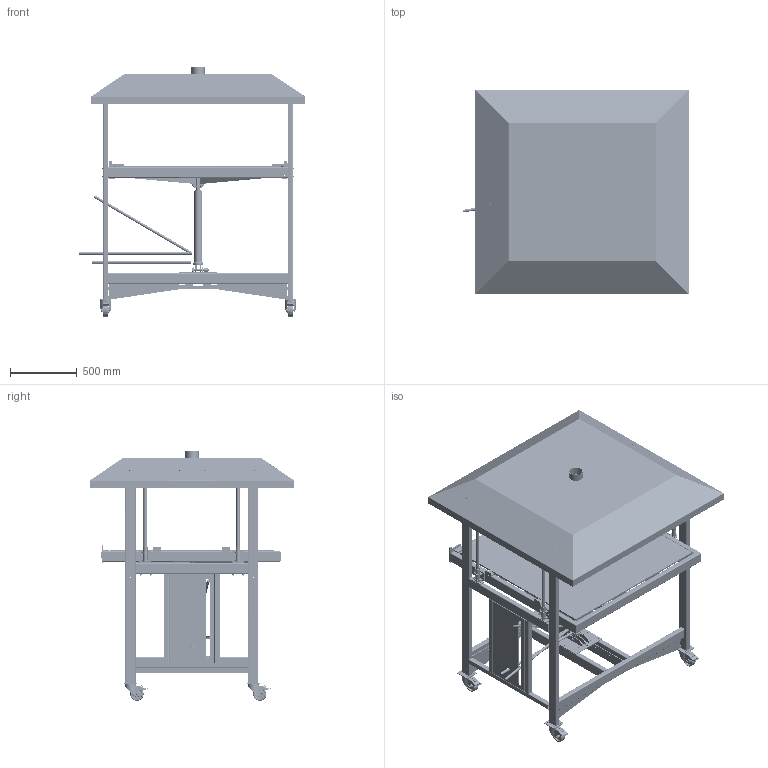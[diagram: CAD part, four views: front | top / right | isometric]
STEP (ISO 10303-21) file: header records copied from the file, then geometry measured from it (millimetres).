
FILE_DESCRIPTION(('STEP AP214'),'1');
FILE_NAME('FF-Coolpress v4.1.stp','2020-09-03T14:43:02',(' '),(' '),'Spatial InterOp 3D',' ',' ');
FILE_SCHEMA(('AUTOMOTIVE_DESIGN { 1 0 10303 214 1 1 1 1 }'));
Length unit declared in the file: metre
Products named in the file (102): SPR-V1 1000.01-A Side frame; Cut-Extrude3; Cut-Extrude321; Cut-Extrude31; voetplaat2; Cut-Extrude312; Frame^SPR-V1 0000.00-A Sheetpress assembly; SPR-V1 1000.01-A Side frame-1; SPR-V1 0000.01-A Bottom frame jack beams; SPR-V1 0000.01-A Bottom Frame side beams; SPR-V1 0000.01-A Jack mount lower; Afzuigkap steun; Component24; FF-Coolpress v4.1; SPR-V1 2100.01-A Pressing plate frame upper; frameA; frameB; frameC; Pressing plate upper^SPR-V1 0000.00-A Sheetpress assembly; SPR-V1 2100.03-A Support structure upper B; SPR-V1 2100.03-A Pressing plate support structure upper A; SPR-V1 2100.05-A Suspension plates2; hex nut gradec_iso_ISO - 4034 - M8 - N; Component23; SPR-V1 3100.01-A Pressing plate frame lower; frameD; frameE; frameF; Pressing plate lower^SPR-V1 0000.00-A Sheetpress assembly; SPR-V1 3100.03-A Pressing plate support structure lower A; SPR-V1 3100.03-A Pressing plate support structure lower B; SPR-V1 3100.03-A Jack mount; socket countersunk head screw_iso_ISO 10642 - M8 x 50 - 28N; persplaat; bolts, nuts, etc; hex bolt gradeab_iso_ISO 4014 - M8 x 100 x 100-N; plain washer normal grade a_iso_Washer ISO 7089 - 8; Sliding mechanism^SPR-V1 0000.00-A Sheetpress assembly; wagen; SPR-V1 1000.02-A Slider guide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
Assembly tree (290 placements, depth 5):
  FF-Coolpress v4.1
    Frame^SPR-V1 0000.00-A Sheetpress assembly
      SPR-V1 1000.01-A Side frame
        Cut-Extrude3
        Cut-Extrude321
        Cut-Extrude31
        voetplaat2  x2
        Cut-Extrude312
      SPR-V1 1000.01-A Side frame-1
        Cut-Extrude3
        Cut-Extrude321
        Cut-Extrude31
        voetplaat2  x2
        Cut-Extrude312
      SPR-V1 0000.01-A Bottom frame jack beams  x2
      SPR-V1 0000.01-A Bottom Frame side beams  x2
      SPR-V1 0000.01-A Jack mount lower  x3
      Afzuigkap steun  x2
      Component24
    Pressing plate upper^SPR-V1 0000.00-A Sheetpress assembly
      SPR-V1 2100.01-A Pressing plate frame upper
        frameA
        frameB  x2
        frameC
      SPR-V1 2100.03-A Support structure upper B
      SPR-V1 2100.03-A Pressing plate support structure upper A
      SPR-V1 2100.05-A Suspension plates2  x8
      hex nut gradec_iso_ISO - 4034 - M8 - N  x8
      Component23
    Pressing plate lower^SPR-V1 0000.00-A Sheetpress assembly
      SPR-V1 3100.01-A Pressing plate frame lower
        frameD
        frameE  x2
        frameF
      SPR-V1 3100.03-A Pressing plate support structure lower A
      SPR-V1 3100.03-A Pressing plate support structure lower B
      SPR-V1 3100.03-A Jack mount  x2
      socket countersunk head screw_iso_ISO 10642 - M8 x 50 - 28N  x8
      SPR-V1 2100.05-A Suspension plates2  x8
      persplaat
    Sliding mechanism^SPR-V1 0000.00-A Sheetpress assembly
      bolts, nuts, etc
        hex bolt gradeab_iso_ISO 4014 - M8 x 100 x 100-N  x16
        plain washer normal grade a_iso_Washer ISO 7089 - 8  x16
        hex nut gradec_iso_ISO - 4034 - M8 - N  x24
      wagen
        SPR-V1 1000.02-A Slider guide
        SPR-V1 1000.02-A Guide bracket  x2
        SPR-V1 1000.02-A Guide plate
      geleider
        SPR-V1 1000.03-A Slider rod
        SPR-V1 1000.04-A Slider rod plate  x2
      wagen-1
        SPR-V1 1000.02-A Slider guide
        SPR-V1 1000.02-A Guide bracket  x2
        SPR-V1 1000.02-A Guide plate
      geleider-1
        SPR-V1 1000.03-A Slider rod
        SPR-V1 1000.04-A Slider rod plate  x2
      wagen-2
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Bounding box: 1691.81 x 1530.42 x 1867.99 mm (x, y, z)
Volume: 81753634.9 mm3; surface area: 34247543.7 mm2
Topology: 273 solids, 301 shells, 12475 faces, 33405 edges, 21693 vertices
Faces by surface type: plane 6153, cylinder 3170, cone 1962, bspline 832, torus 205, extrusion 141, sphere 12
Full cylindrical faces by diameter (mm): 4 x4, 5 x20, 6 x12, 6.8 x98, 8 x122, 8.4 x16, 8.5 x24, 9 x56, 10 x28, 12 x46, 13 x16, 14 x8, 15 x12, 15.24 x8, 16 x545, 17 x18, 18 x29, 19 x4, 20 x3, 21 x4, 24 x8, 24.533 x4, 27 x4, 27.4 x8, 28 x5, 30 x13, 32 x8, 34 x4, 34.2 x8, 35 x1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
Entity records: 165686 total; most frequent: CARTESIAN_POINT 45278, ORIENTED_EDGE 22741, DIRECTION 21836, EDGE_CURVE 11372, VECTOR 8044, LINE 7910, VERTEX_POINT 7817, AXIS2_PLACEMENT_3D 6896
